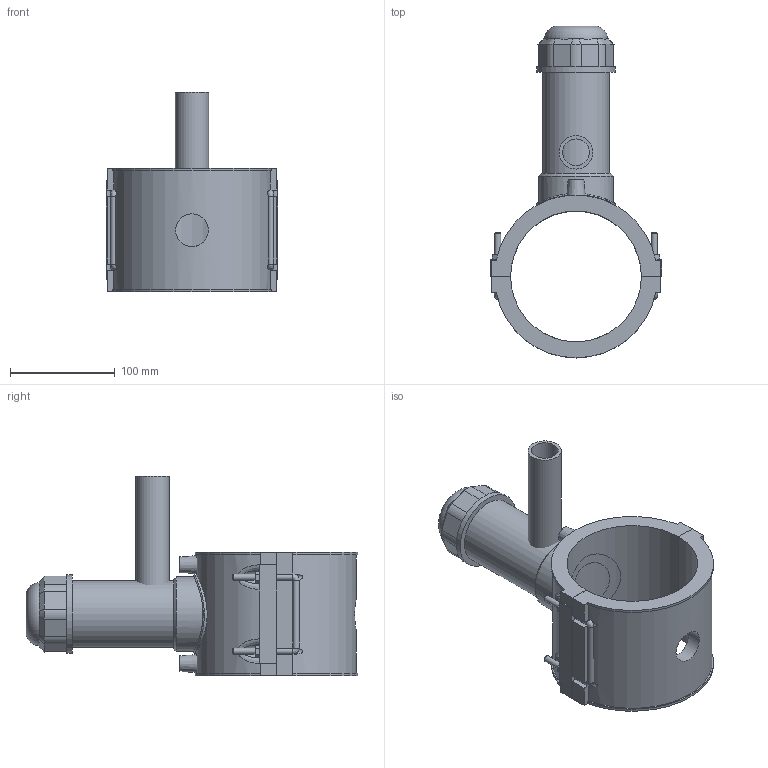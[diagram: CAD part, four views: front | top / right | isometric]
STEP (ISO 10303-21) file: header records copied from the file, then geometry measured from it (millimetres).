
FILE_DESCRIPTION(/* description */ (''),/* implementation_level */ '2;1');
FILE_NAME(/* name */ 'C:\Dropbox\KIMPROJECTS-Inventor 2019\99-16-3568-Processing\ElectroFusion Fittings\4963P4\stp\4963P4125032.stp',/* time_stamp */ '2022-03-17T11:28:33+02:00',/* author */ ('KIM'),/* organization */ (''),/* preprocessor_version */ 'ST-DEVELOPER v17.2',/* originating_system */ 'Autodesk Inventor 2019',/* authorisation */ '');
FILE_SCHEMA (('AUTOMOTIVE_DESIGN { 1 0 10303 214 3 1 1 }'));
Length unit declared in the file: millimetre
Products named in the file (1): 4963P4125032
Bounding box: 164 x 317.27 x 191 mm (x, y, z)
Volume: 1128518.4 mm3; surface area: 231063.4 mm2
Topology: 3 solids, 3 shells, 201 faces, 519 edges, 333 vertices
Faces by surface type: plane 119, cylinder 53, cone 15, bspline 13, torus 1
Full cylindrical faces by diameter (mm): 4 x2, 6 x8, 10 x2, 25.6 x1, 31.36 x1, 32 x1, 52.5 x1, 63.75 x1, 71.25 x1, 75 x2
Entity records: 7318 total; most frequent: CARTESIAN_POINT 2439, ORIENTED_EDGE 1022, DIRECTION 966, EDGE_CURVE 511, VERTEX_POINT 333, AXIS2_PLACEMENT_3D 331, LINE 304, VECTOR 304
